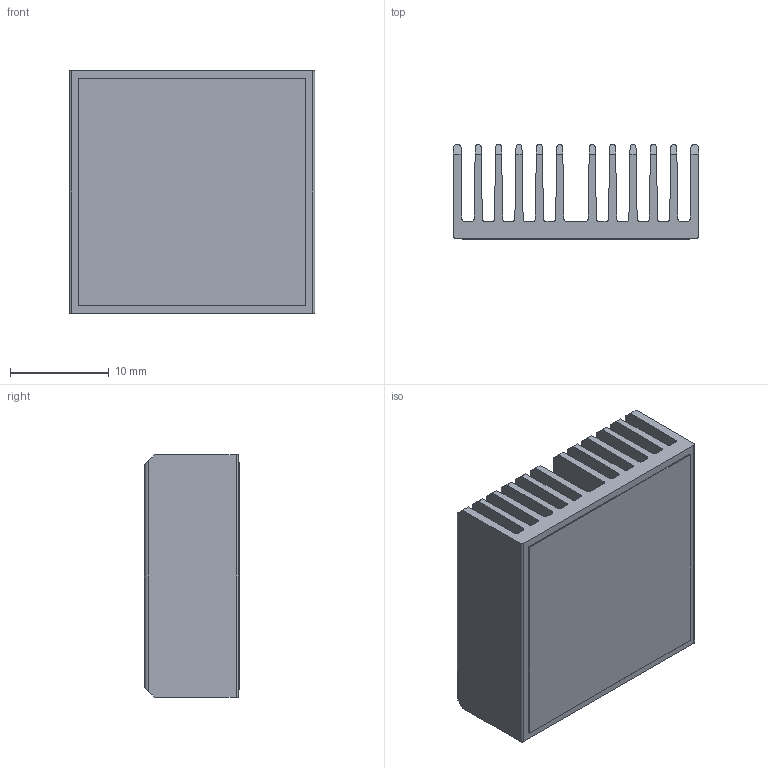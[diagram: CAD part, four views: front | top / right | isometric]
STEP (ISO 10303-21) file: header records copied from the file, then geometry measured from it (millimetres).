
FILE_DESCRIPTION (( 'STEP AP214' ), '1' );
FILE_NAME ('INL25001-10-1.7.STEP', '2023-02-21T19:28:37', ( '' ), ( '' ), 'SwSTEP 2.0', 'SolidWorks 2020', '' );
FILE_SCHEMA (( 'AUTOMOTIVE_DESIGN' ));
Length unit declared in the file: millimetre
Products named in the file (1): INL25001-10-1.7
Bounding box: 24.8 x 9.6 x 24.5 mm (x, y, z)
Volume: 2759.6 mm3; surface area: 6944.1 mm2
Topology: 2 solids, 2 shells, 104 faces, 300 edges, 200 vertices
Faces by surface type: plane 68, cylinder 36
Entity records: 4579 total; most frequent: CARTESIAN_POINT 677, ORIENTED_EDGE 600, DIRECTION 534, EDGE_CURVE 300, VECTOR 228, LINE 228, VERTEX_POINT 200, AXIS2_PLACEMENT_3D 153
